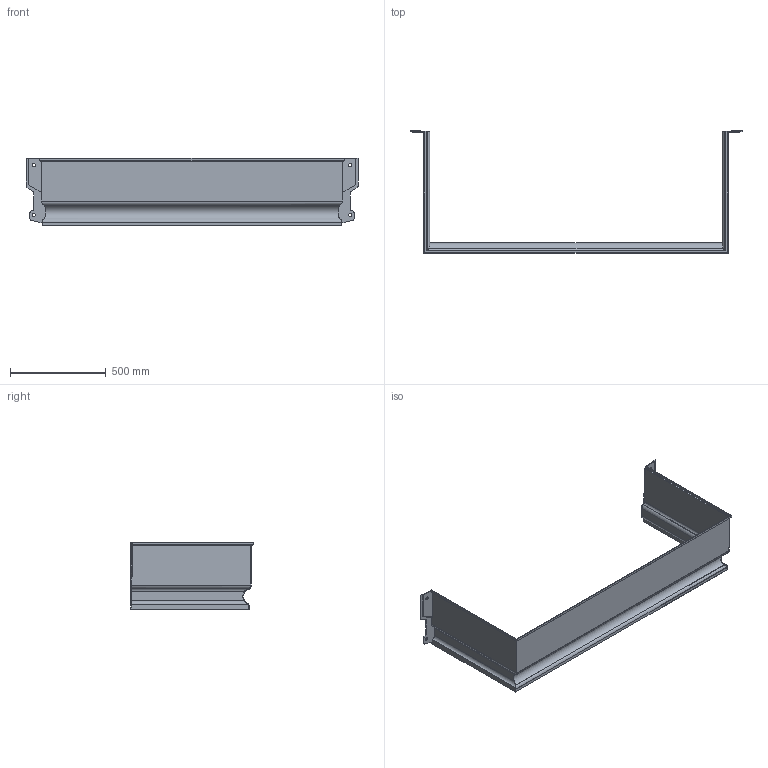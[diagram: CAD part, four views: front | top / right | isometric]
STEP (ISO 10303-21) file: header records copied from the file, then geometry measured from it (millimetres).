
FILE_DESCRIPTION(/* description */ (''),/* implementation_level */ '2;1');
FILE_NAME(/* name */ 'Q:\sge-bs-neu-2008\Marketing\CAD Zeichnungen\3D-CAD-Daten\3D Daten Website\- MEA Multinorm Aufsatz Kunststofflichtschacht_\Step\MEA_MULTINORM_Aufsatz_150x35x60.stp',/* time_stamp */ '2019-02-14T13:21:39+01:00',/* author */ ('avgrahammj'),/* organization */ (''),/* preprocessor_version */ 'ST-DEVELOPER v16.1',/* originating_system */ 'Autodesk Inventor 2016',/* authorisation */ '');
FILE_SCHEMA (('AUTOMOTIVE_DESIGN { 1 0 10303 214 3 1 1 }'));
Length unit declared in the file: centimetre
Products named in the file (1): MEA_MULTINORM_Aufsatz_150x35x60
Bounding box: 1732 x 637 x 350 mm (x, y, z)
Volume: 4413138.7 mm3; surface area: 2234010 mm2
Topology: 1 solids, 1 shells, 92 faces, 268 edges, 178 vertices
Faces by surface type: plane 60, cylinder 32
Full cylindrical faces by diameter (mm): 16 x4
Entity records: 3191 total; most frequent: CARTESIAN_POINT 725, ORIENTED_EDGE 524, DIRECTION 480, EDGE_CURVE 262, LINE 190, VECTOR 190, VERTEX_POINT 176, AXIS2_PLACEMENT_3D 145
